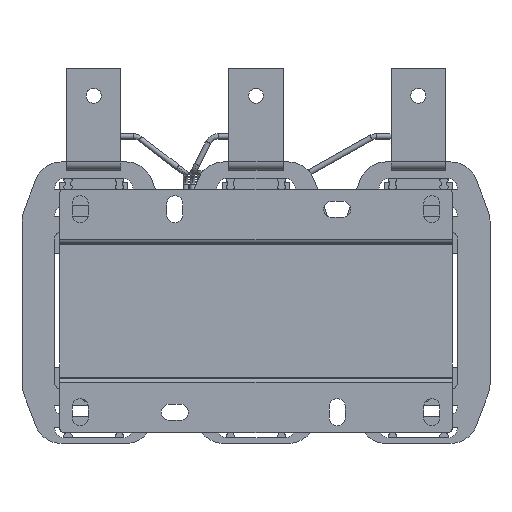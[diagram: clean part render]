
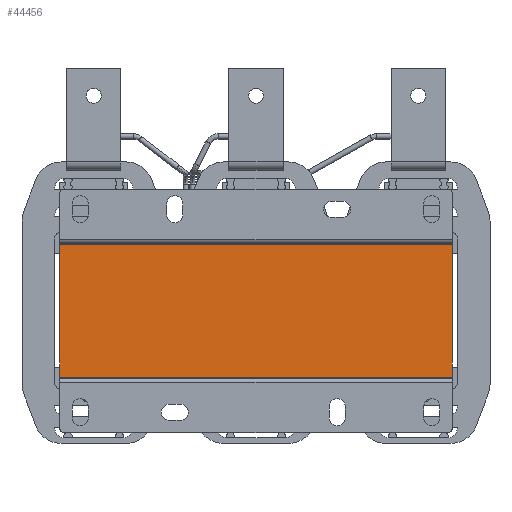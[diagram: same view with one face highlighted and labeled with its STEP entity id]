
A CAD part, front view. The second image highlights one B-rep face of the part: STEP entity #44456.
In plain terms, the highlighted planar face has unit normal (0, -1, 0).
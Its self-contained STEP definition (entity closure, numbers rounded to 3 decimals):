
#251 = EDGE_LOOP ( 'NONE', ( #30929, #10019, #13837, #48638 ) ) ;
#1881 = LINE ( 'NONE', #15871, #29490 ) ;
#6056 = VERTEX_POINT ( 'NONE', #12343 ) ;
#6085 = DIRECTION ( 'NONE',  ( 0., 0., -1. ) ) ;
#6414 = CARTESIAN_POINT ( 'NONE',  ( -145., -140., 98. ) ) ;
#7688 = CARTESIAN_POINT ( 'NONE',  ( 145., -140., 98. ) ) ;
#9025 = EDGE_CURVE ( 'NONE', #10823, #51627, #31816, .T. ) ;
#10019 = ORIENTED_EDGE ( 'NONE', *, *, #25864, .F. ) ;
#10823 = VERTEX_POINT ( 'NONE', #7688 ) ;
#11861 = VECTOR ( 'NONE', #6085, 1000. ) ;
#12343 = CARTESIAN_POINT ( 'NONE',  ( -145., -140., 0. ) ) ;
#13837 = ORIENTED_EDGE ( 'NONE', *, *, #28556, .F. ) ;
#15477 = DIRECTION ( 'NONE',  ( 0., 0., 1. ) ) ;
#15871 = CARTESIAN_POINT ( 'NONE',  ( -145., -140., 0. ) ) ;
#19420 = VECTOR ( 'NONE', #15477, 1000. ) ;
#20460 = DIRECTION ( 'NONE',  ( 1., 0., 0. ) ) ;
#21573 = AXIS2_PLACEMENT_3D ( 'NONE', #26004, #42169, #34226 ) ;
#24016 = CARTESIAN_POINT ( 'NONE',  ( 0., -140., 98. ) ) ;
#25194 = FACE_OUTER_BOUND ( 'NONE', #251, .T. ) ;
#25864 = EDGE_CURVE ( 'NONE', #42896, #10823, #37461, .T. ) ;
#26004 = CARTESIAN_POINT ( 'NONE',  ( -145., -140., 98. ) ) ;
#26592 = CARTESIAN_POINT ( 'NONE',  ( -145., -140., 98. ) ) ;
#28200 = DIRECTION ( 'NONE',  ( -1., 0., 0. ) ) ;
#28556 = EDGE_CURVE ( 'NONE', #6056, #42896, #40656, .T. ) ;
#29490 = VECTOR ( 'NONE', #28200, 1000. ) ;
#30929 = ORIENTED_EDGE ( 'NONE', *, *, #9025, .F. ) ;
#31816 = LINE ( 'NONE', #48556, #11861 ) ;
#34226 = DIRECTION ( 'NONE',  ( -1., 0., 0. ) ) ;
#37461 = LINE ( 'NONE', #24016, #45202 ) ;
#40656 = LINE ( 'NONE', #6414, #19420 ) ;
#42169 = DIRECTION ( 'NONE',  ( 0., 1., 0. ) ) ;
#42727 = PLANE ( 'NONE',  #21573 ) ;
#42896 = VERTEX_POINT ( 'NONE', #26592 ) ;
#44456 = ADVANCED_FACE ( 'NONE', ( #25194 ), #42727, .F. ) ;
#44799 = EDGE_CURVE ( 'NONE', #51627, #6056, #1881, .T. ) ;
#45202 = VECTOR ( 'NONE', #20460, 1000. ) ;
#48556 = CARTESIAN_POINT ( 'NONE',  ( 145., -140., 98. ) ) ;
#48638 = ORIENTED_EDGE ( 'NONE', *, *, #44799, .F. ) ;
#51314 = CARTESIAN_POINT ( 'NONE',  ( 145., -140., 0. ) ) ;
#51627 = VERTEX_POINT ( 'NONE', #51314 ) ;
